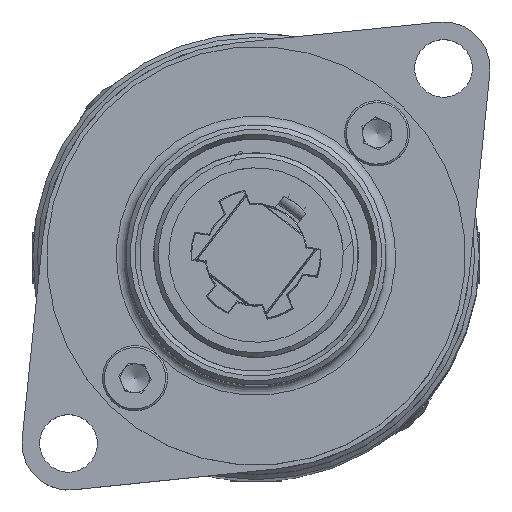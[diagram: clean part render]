
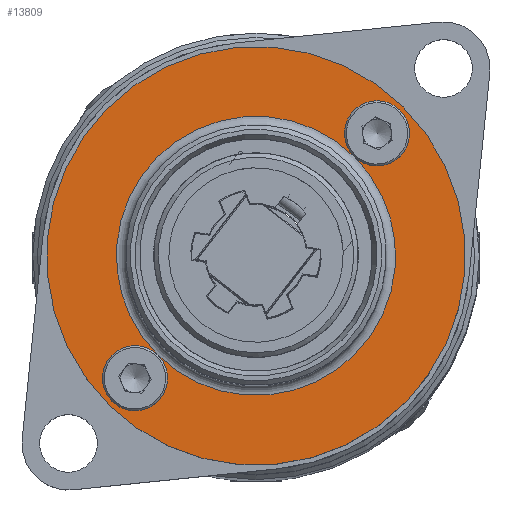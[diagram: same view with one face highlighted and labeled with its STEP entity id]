
A CAD part, top view. The second image highlights one B-rep face of the part: STEP entity #13809.
In plain terms, the highlighted planar face has unit normal (0, 0, 1).
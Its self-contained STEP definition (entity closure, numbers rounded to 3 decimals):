
#737 = AXIS2_PLACEMENT_3D ( 'NONE', #12044, #7421, #13277 ) ;
#824 = PLANE ( 'NONE',  #14722 ) ;
#1337 = EDGE_LOOP ( 'NONE', ( #2405 ) ) ;
#2405 = ORIENTED_EDGE ( 'NONE', *, *, #5876, .F. ) ;
#2483 = CARTESIAN_POINT ( 'NONE',  ( 15.999, 38.593, 120.342 ) ) ;
#2528 = EDGE_LOOP ( 'NONE', ( #15225 ) ) ;
#3816 = EDGE_CURVE ( 'NONE', #15087, #15087, #11653, .T. ) ;
#3819 = DIRECTION ( 'NONE',  ( 0.711, -0.703, 0. ) ) ;
#3841 = CIRCLE ( 'NONE', #14681, 22.5 ) ;
#4738 = CARTESIAN_POINT ( 'NONE',  ( -11.515, 39.783, 120.342 ) ) ;
#4992 = AXIS2_PLACEMENT_3D ( 'NONE', #6689, #8927, #11325 ) ;
#5262 = CARTESIAN_POINT ( 'NONE',  ( 10.666, 43.867, 120.342 ) ) ;
#5639 = DIRECTION ( 'NONE',  ( 0.711, -0.703, 0. ) ) ;
#5876 = EDGE_CURVE ( 'NONE', #14002, #14002, #7068, .T. ) ;
#6082 = AXIS2_PLACEMENT_3D ( 'NONE', #14500, #13338, #11045 ) ;
#6689 = CARTESIAN_POINT ( 'NONE',  ( 13.008, 67.568, 120.342 ) ) ;
#6722 = FACE_BOUND ( 'NONE', #1337, .T. ) ;
#6789 = FACE_OUTER_BOUND ( 'NONE', #13144, .T. ) ;
#7048 = EDGE_LOOP ( 'NONE', ( #11182 ) ) ;
#7068 = CIRCLE ( 'NONE', #6082, 2.1 ) ;
#7397 = EDGE_CURVE ( 'NONE', #8203, #8203, #3841, .T. ) ;
#7420 = CIRCLE ( 'NONE', #737, 15. ) ;
#7421 = DIRECTION ( 'NONE',  ( 0., 0., -1. ) ) ;
#8014 = DIRECTION ( 'NONE',  ( 0., 0., 1. ) ) ;
#8203 = VERTEX_POINT ( 'NONE', #2483 ) ;
#8604 = DIRECTION ( 'NONE',  ( 0., 0., 1. ) ) ;
#8927 = DIRECTION ( 'NONE',  ( 0., 0., 1. ) ) ;
#9193 = FACE_BOUND ( 'NONE', #2528, .T. ) ;
#9346 = CARTESIAN_POINT ( 'NONE',  ( 0., 54.414, 120.342 ) ) ;
#9408 = EDGE_CURVE ( 'NONE', #14366, #14366, #7420, .T. ) ;
#11045 = DIRECTION ( 'NONE',  ( 0.711, -0.703, 0. ) ) ;
#11182 = ORIENTED_EDGE ( 'NONE', *, *, #3816, .F. ) ;
#11325 = DIRECTION ( 'NONE',  ( 0.711, -0.703, 0. ) ) ;
#11653 = CIRCLE ( 'NONE', #4992, 2.1 ) ;
#12017 = ORIENTED_EDGE ( 'NONE', *, *, #7397, .T. ) ;
#12044 = CARTESIAN_POINT ( 'NONE',  ( 0., 54.414, 120.342 ) ) ;
#13144 = EDGE_LOOP ( 'NONE', ( #12017 ) ) ;
#13277 = DIRECTION ( 'NONE',  ( 0.711, -0.703, 0. ) ) ;
#13338 = DIRECTION ( 'NONE',  ( 0., 0., 1. ) ) ;
#13611 = CARTESIAN_POINT ( 'NONE',  ( 14.501, 66.092, 120.342 ) ) ;
#13809 = ADVANCED_FACE ( 'NONE', ( #9193, #14041, #6722, #6789 ), #824, .T. ) ;
#14002 = VERTEX_POINT ( 'NONE', #4738 ) ;
#14041 = FACE_BOUND ( 'NONE', #7048, .T. ) ;
#14366 = VERTEX_POINT ( 'NONE', #5262 ) ;
#14500 = CARTESIAN_POINT ( 'NONE',  ( -13.008, 41.259, 120.342 ) ) ;
#14535 = CARTESIAN_POINT ( 'NONE',  ( 0., 54.414, 120.342 ) ) ;
#14681 = AXIS2_PLACEMENT_3D ( 'NONE', #14535, #8604, #3819 ) ;
#14722 = AXIS2_PLACEMENT_3D ( 'NONE', #9346, #8014, #5639 ) ;
#15087 = VERTEX_POINT ( 'NONE', #13611 ) ;
#15225 = ORIENTED_EDGE ( 'NONE', *, *, #9408, .T. ) ;
